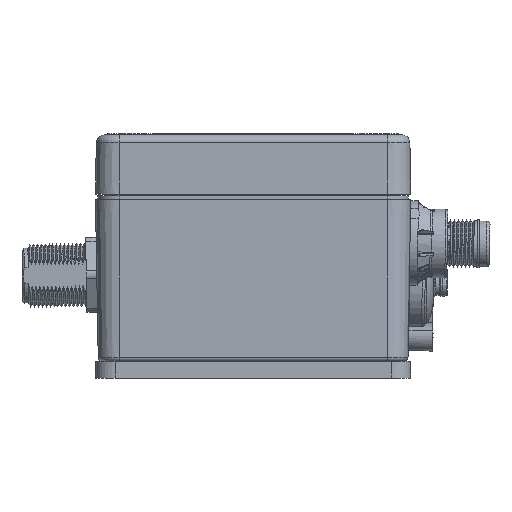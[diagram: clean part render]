
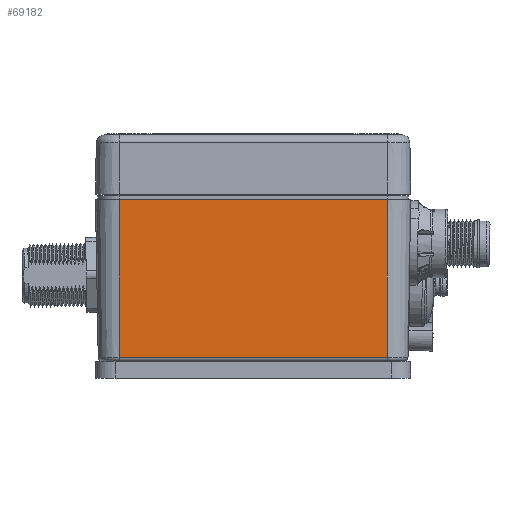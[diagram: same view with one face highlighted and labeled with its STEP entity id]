
A CAD part, left-side view. The second image highlights one B-rep face of the part: STEP entity #69182.
In plain terms, the highlighted planar face has unit normal (-1, 0, -0.018).
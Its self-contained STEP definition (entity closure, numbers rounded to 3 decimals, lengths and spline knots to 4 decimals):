
#1928=PLANE('',#74880);
#6667=LINE('',#132281,#12718);
#6668=LINE('',#132284,#12719);
#6669=LINE('',#132286,#12720);
#6670=LINE('',#132287,#12721);
#12718=VECTOR('',#88372,0.1);
#12719=VECTOR('',#88377,0.1);
#12720=VECTOR('',#88378,0.1);
#12721=VECTOR('',#88379,0.1);
#19246=FACE_OUTER_BOUND('',#23296,.T.);
#23296=EDGE_LOOP('',(#59401,#59402,#59403,#59404));
#32684=VERTEX_POINT('',#131908);
#32805=VERTEX_POINT('',#132278);
#32806=VERTEX_POINT('',#132280);
#32807=VERTEX_POINT('',#132285);
#42041=EDGE_CURVE('',#32806,#32805,#6667,.T.);
#42043=EDGE_CURVE('',#32684,#32805,#6668,.T.);
#42044=EDGE_CURVE('',#32807,#32684,#6669,.T.);
#42045=EDGE_CURVE('',#32807,#32806,#6670,.T.);
#59401=ORIENTED_EDGE('',*,*,#42043,.F.);
#59402=ORIENTED_EDGE('',*,*,#42044,.F.);
#59403=ORIENTED_EDGE('',*,*,#42045,.T.);
#59404=ORIENTED_EDGE('',*,*,#42041,.T.);
#69182=ADVANCED_FACE('',(#19246),#1928,.T.);
#74880=AXIS2_PLACEMENT_3D('',#132283,#88375,#88376);
#88372=DIRECTION('',(0.017,0.,-1.));
#88375=DIRECTION('center_axis',(-1.,0.,
-0.017));
#88376=DIRECTION('ref_axis',(0.,1.,0.));
#88377=DIRECTION('',(0.,1.,0.));
#88378=DIRECTION('',(0.017,0.,-1.));
#88379=DIRECTION('',(0.,1.,0.));
#131908=CARTESIAN_POINT('',(-11.588,-11.4187,-4.1017));
#132278=CARTESIAN_POINT('',(-11.588,-4.6187,-4.1017));
#132280=CARTESIAN_POINT('',(-11.6579,-4.6187,-0.1));
#132281=CARTESIAN_POINT('',(-11.6596,-4.6187,0.));
#132283=CARTESIAN_POINT('Origin',(-11.6596,-8.0187,0.));
#132284=CARTESIAN_POINT('',(-11.588,-8.0187,-4.1017));
#132285=CARTESIAN_POINT('',(-11.6579,-11.4187,-0.1));
#132286=CARTESIAN_POINT('',(-11.6596,-11.4187,0.));
#132287=CARTESIAN_POINT('',(-11.6579,-8.0187,-0.1));
